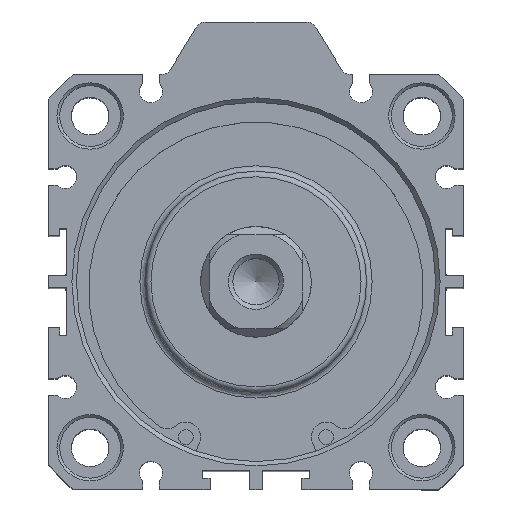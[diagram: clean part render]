
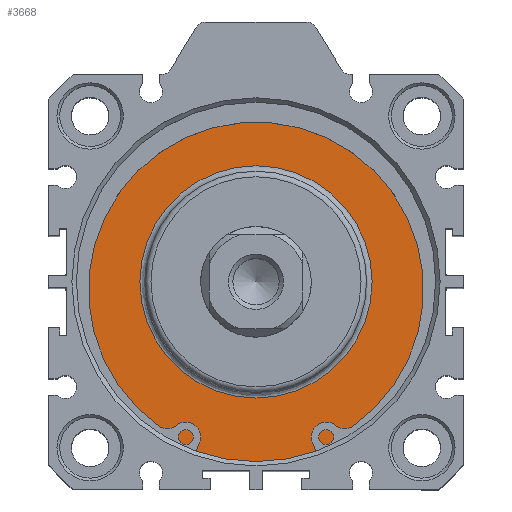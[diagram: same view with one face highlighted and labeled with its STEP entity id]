
A CAD part, top view. The second image highlights one B-rep face of the part: STEP entity #3668.
In plain terms, the highlighted planar face has unit normal (0, 0, 1).
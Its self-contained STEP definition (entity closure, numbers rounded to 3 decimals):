
#3617=CARTESIAN_POINT('',(0.359,19.684,77.3));
#3618=VERTEX_POINT('',#3617);
#3619=CARTESIAN_POINT('',(0.359,-1.316,77.3));
#3620=DIRECTION('',(0.0,0.0,1.0));
#3621=DIRECTION('',(0.0,-1.0,0.0));
#3622=AXIS2_PLACEMENT_3D('',#3619,#3620,#3621);
#3623=CIRCLE('',#3622,21.0);
#3624=EDGE_CURVE('',#3618,#3618,#3623,.T.);
#3649=CARTESIAN_POINT('',(0.359,24.934,77.3));
#3650=DIRECTION('',(0.0,0.0,1.0));
#3651=DIRECTION('',(1.0,0.0,0.0));
#3652=AXIS2_PLACEMENT_3D('',#3649,#3650,#3651);
#3653=PLANE('',#3652);
#3654=CARTESIAN_POINT('',(0.359,31.184,77.3));
#3655=VERTEX_POINT('',#3654);
#3656=CARTESIAN_POINT('',(0.359,-1.316,77.3));
#3657=DIRECTION('',(0.0,0.0,-1.0));
#3658=DIRECTION('',(0.0,1.0,0.0));
#3659=AXIS2_PLACEMENT_3D('',#3656,#3657,#3658);
#3660=CIRCLE('',#3659,32.5);
#3661=EDGE_CURVE('',#3655,#3655,#3660,.T.);
#3662=ORIENTED_EDGE('',*,*,#3661,.F.);
#3663=EDGE_LOOP('',(#3662));
#3664=FACE_OUTER_BOUND('',#3663,.T.);
#3665=ORIENTED_EDGE('',*,*,#3624,.F.);
#3666=EDGE_LOOP('',(#3665));
#3667=FACE_BOUND('',#3666,.T.);
#3668=ADVANCED_FACE('',(#3664,#3667),#3653,.T.);
